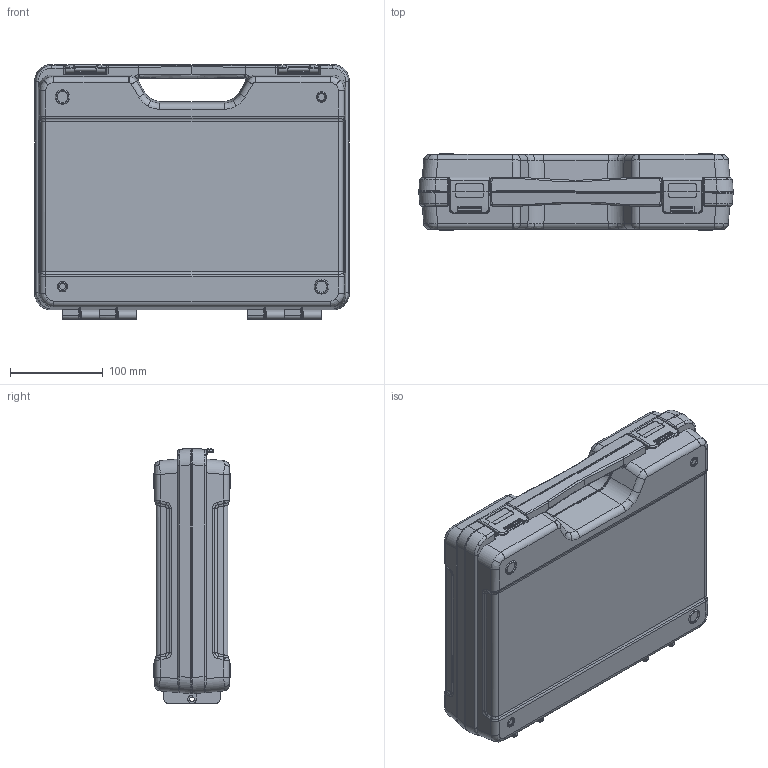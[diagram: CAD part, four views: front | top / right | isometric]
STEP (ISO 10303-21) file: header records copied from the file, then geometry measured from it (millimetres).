
FILE_DESCRIPTION (( 'STEP AP203' ), '1' );
FILE_NAME ('PC-460-0-0.STEP', '2021-06-30T08:52:13', ( '' ), ( '' ), 'SwSTEP 2.0', 'SolidWorks 2021', '' );
FILE_SCHEMA (( 'CONFIG_CONTROL_DESIGN' ));
Length unit declared in the file: millimetre
Products named in the file (3): PC-460; PC-910; PC-460-0-0
Assembly tree (4 placements, depth 2):
  PC-460-0-0
    PC-460  x2
    PC-910  x2
Bounding box: 340 x 82.75 x 275.59 mm (x, y, z)
Volume: 792010 mm3; surface area: 544229.1 mm2
Topology: 4 solids, 4 shells, 1162 faces, 3060 edges, 1934 vertices
Faces by surface type: plane 424, cylinder 398, bspline 260, cone 44, torus 32, sphere 4
Entity records: 22262 total; most frequent: CARTESIAN_POINT 9099, ORIENTED_EDGE 3056, DIRECTION 2241, EDGE_CURVE 1528, VERTEX_POINT 967, VECTOR 781, LINE 781, AXIS2_PLACEMENT_3D 730
